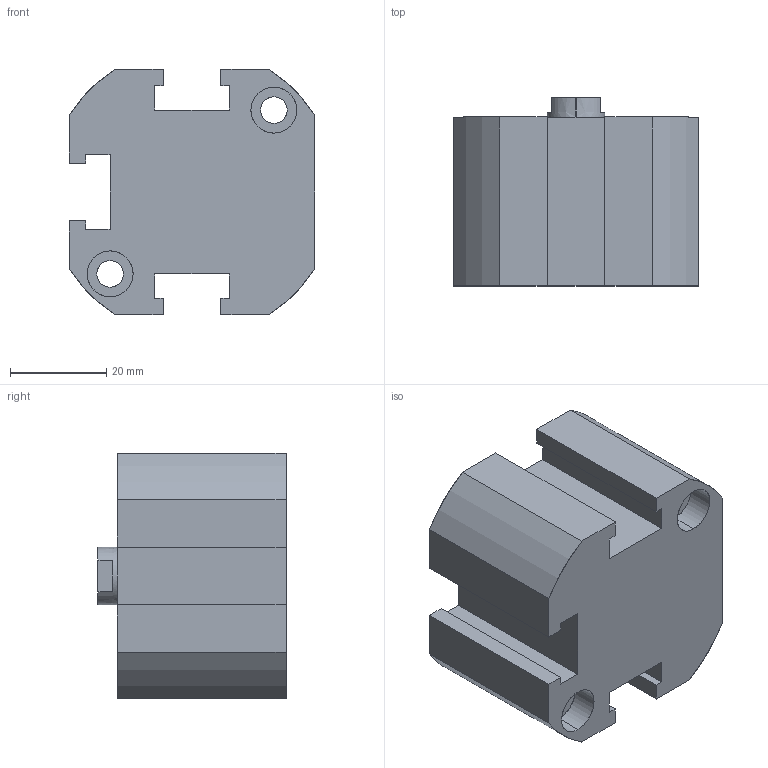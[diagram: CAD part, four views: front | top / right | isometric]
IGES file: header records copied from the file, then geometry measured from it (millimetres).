
Start section: SolidWorks IGES file using analytic representation for surfaces
Global section: file name: C:\Users\Toshiba\Desktop\XC#2-32-10.IGS; native system: SolidWorks 2014; preprocessor: SolidWorks 2014; author: Toshiba; date: 160523.160814; units: millimetre
Bounding box: 51 x 39 x 51 mm (x, y, z)
Surface area: 15771.4 mm2 (no closed solid volume)
Topology: 0 solids, 0 shells, 98 faces, 1502 edges, 1496 vertices
Faces by surface type: revolution 52, bspline 46
